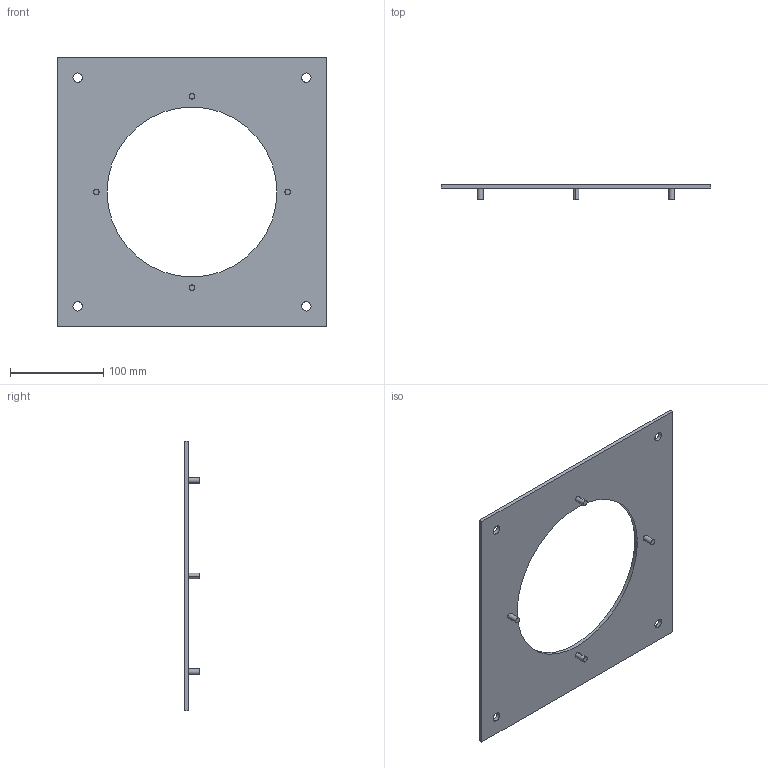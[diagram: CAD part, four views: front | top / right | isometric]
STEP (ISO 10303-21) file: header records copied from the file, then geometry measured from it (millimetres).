
FILE_DESCRIPTION(('STEP AP214'),'1');
FILE_NAME('accessory_5136821500.stp','2017-10-10T13:26:25',('TraceParts'),('TraceParts S.A.'),'Spatial InterOp 3D',' ',' ');
FILE_SCHEMA(('automotive_design'));
Length unit declared in the file: millimetre
Products named in the file (1): accessory_5136821500
Bounding box: 289 x 16 x 289 mm (x, y, z)
Volume: 230122.4 mm3; surface area: 122701.1 mm2
Topology: 1 solids, 1 shells, 28 faces, 66 edges, 44 vertices
Faces by surface type: cylinder 18, plane 10
Entity records: 1086 total; most frequent: DIRECTION 160, CARTESIAN_POINT 139, ORIENTED_EDGE 132, EDGE_CURVE 66, AXIS2_PLACEMENT_3D 65, VERTEX_POINT 44, EDGE_LOOP 42, CIRCLE 36
